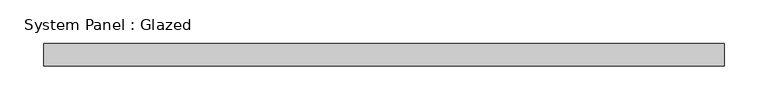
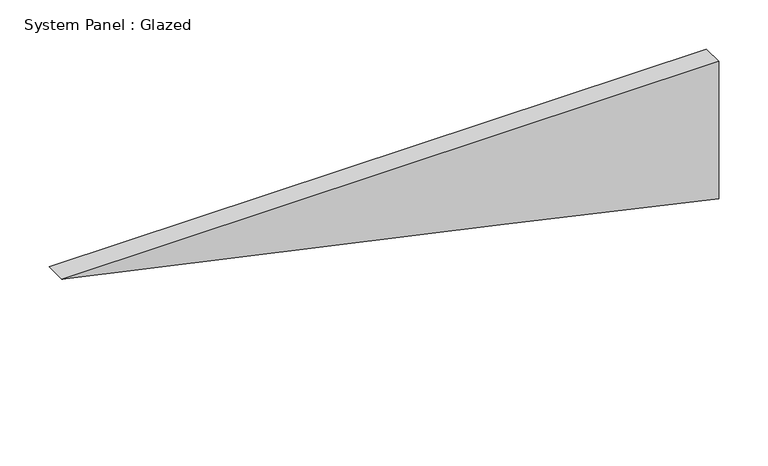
"""IFC4 building model written with IfcOpenShell, lengths in millimetres: plate geometry, System Panel : Glazed."""

from ifc_helpers import new_model, si_unit, frame, origin, place, context, project, spatial, polyline, outline, extrude, source, transform, mapped, element, save


def system_panel_glazed_66757764(model_context):
    return source(origin(), model_context, "Body", "SweptSolid", [
        extrude(outline(polyline([(57.7233983, 129.4607682), (0.0, 386.4482581), (170.9155062, 386.4482581), (170.9155062, -386.4482581), (57.7233983, 129.4607682)])), frame((0.0, 19.05, 0.0), z_axis=(0.0, 1.0, 0.0), x_axis=(0.0, 0.0, 1.0)), (0.0, 0.0, 1.0), 25.4),
    ])


if __name__ == "__main__":
    model = new_model("IFC4")
    model_context = context("Model", 3, world=origin())
    ifc_project = project(units=[si_unit("LENGTHUNIT", "METRE", prefix="MILLI")], contexts=[model_context])
    site = spatial("IfcSite", under=ifc_project)
    building = spatial("IfcBuilding", under=site)
    placement = place(None, origin())
    system_panel_glazed_shape = system_panel_glazed_66757764(model_context)
    element("IfcPlate", 1, ObjectType="System Panel : Glazed", at=placement, inside=building, context=model_context, shape_type="MappedRepresentation", body=[
        mapped(system_panel_glazed_shape, transform((0.0, 0.0, 0.0), x_axis=(1.0, 0.0, 0.0), y_axis=(0.0, 1.0, 0.0), z_axis=(0.0, 0.0, 1.0))),
    ])
    save(model, "model.ifc")
